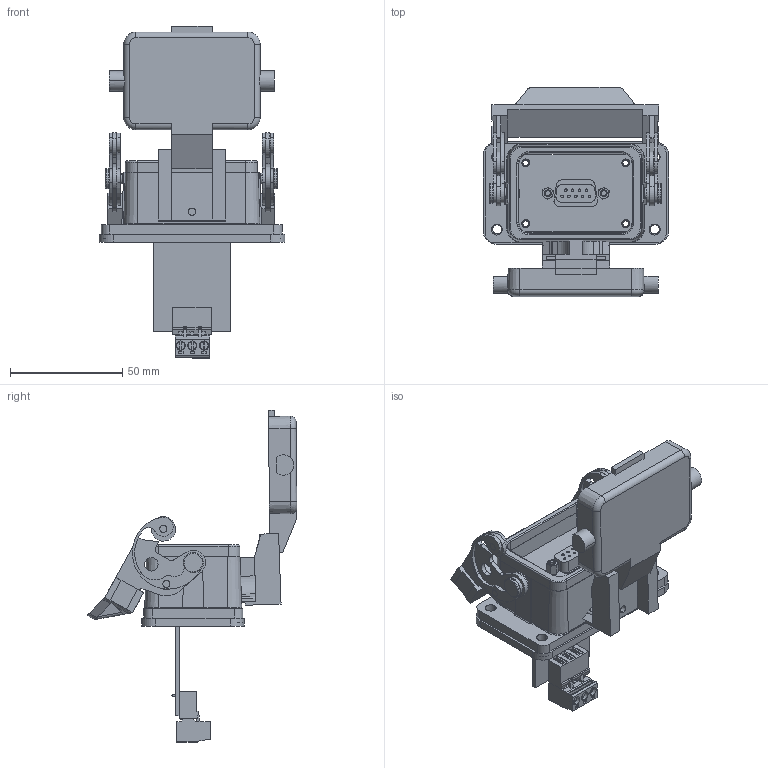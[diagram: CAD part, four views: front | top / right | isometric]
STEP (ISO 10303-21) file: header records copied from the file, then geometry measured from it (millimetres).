
FILE_DESCRIPTION (( 'STEP AP214' ), '1' );
FILE_NAME ('DH-DB9-06LS.STEP', '2005-06-30T14:17:04', ( 'Bruce' ), ( 'Mencom Corporation' ), 'SwSTEP 2.0', 'SolidWorks 2005103', '' );
FILE_SCHEMA (( 'AUTOMOTIVE_DESIGN' ));
Length unit declared in the file: inch
Products named in the file (1): DH-DB9-06LS
Bounding box: 82.65 x 93.25 x 147.68 mm (x, y, z)
Volume: 79246.7 mm3; surface area: 68880.5 mm2
Topology: 27 solids, 27 shells, 1313 faces, 3377 edges, 2191 vertices
Faces by surface type: plane 769, cylinder 455, torus 46, cone 37, sphere 6
Entity records: 57394 total; most frequent: CARTESIAN_POINT 7203, DIRECTION 6892, ORIENTED_EDGE 6730, EDGE_CURVE 3365, AXIS2_PLACEMENT_3D 2316, VECTOR 2260, LINE 2260, VERTEX_POINT 2185
